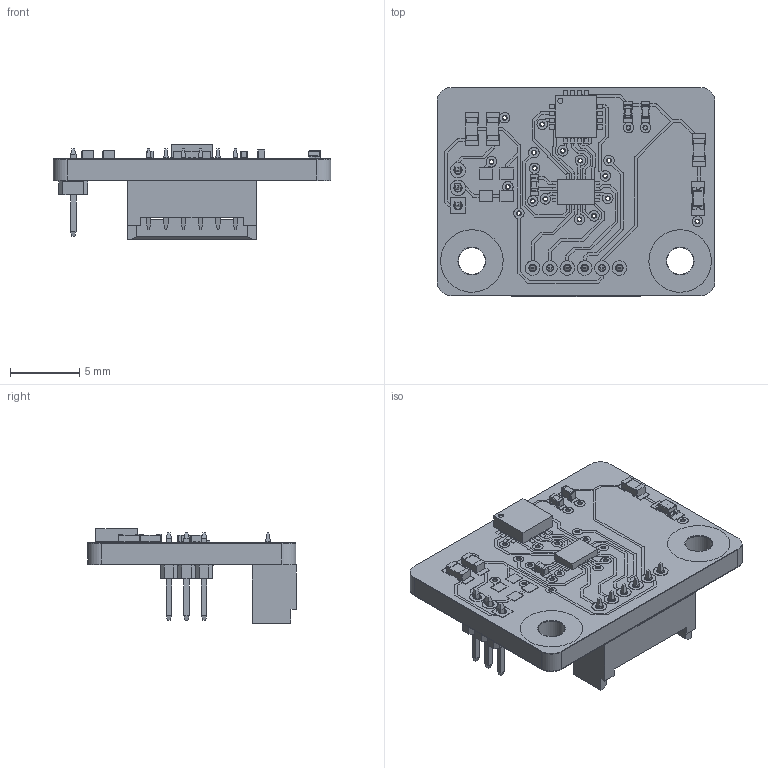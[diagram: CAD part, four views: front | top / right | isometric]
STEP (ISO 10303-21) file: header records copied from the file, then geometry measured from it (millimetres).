
FILE_DESCRIPTION(/* description */ (''),/* implementation_level */ '2;1');
FILE_NAME(/* name */ 'NCoder600-Config2.step',/* time_stamp */ '2025-08-12T17:18:06+05:30',/* author */ (''),/* organization */ (''),/* preprocessor_version */ 'ST-DEVELOPER v20.1',/* originating_system */ 'Autodesk Translation Framework v14.10.0.0',/* authorisation */ '');
FILE_SCHEMA (('AUTOMOTIVE_DESIGN { 1 0 10303 214 3 1 1 }'));
Products named in the file (43): NCoder600-Config2; NCoder600-Board_CAD; Board; Packages; CAPC1005X55N; Fillet1; Fillet2; body2; RESC1608X55N; CAPC1005X55N (1); 36624519; Part 3; Part 2; Part 1; QFN50P300X300X100-17N; MA600GQE-0000-P v3; Body (1); ThermalPin; PinsArrayLR; PinsArrayTB; RESC1608X55N (1); LEDC1608X80N; 36595674; Light; Body; Anode Bottom; Cathode Bottom; Anode; Cathode; Base; HDRV3W40P0X127_1X3_381X210X430; M50-3530342 v1; M50-35303_MOULD; M50-353_CONTACT; QFN40P180X260X55-16N; TMUX1574RSVR v1; BODY-SON1; FRAME-RSV0016A; 1-copper; 16-copper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
Assembly tree (46 placements, depth 6):
  NCoder600-Config2
    NCoder600-Board_CAD
      Board
      Packages
        CAPC1005X55N  x2
          Fillet1
          Fillet2
          body2
        RESC1608X55N  x2
        CAPC1005X55N (1)
          36624519
            Part 3
            Part 2
            Part 1
        QFN50P300X300X100-17N
          MA600GQE-0000-P v3
            Body (1)
            ThermalPin
            PinsArrayLR
            PinsArrayTB
        RESC1608X55N (1)
        LEDC1608X80N
          36595674
            Light
            Body
            Anode Bottom
            Cathode Bottom
            Anode
            Cathode
            Base
        HDRV3W40P0X127_1X3_381X210X430
          M50-3530342 v1
            M50-35303_MOULD
            M50-353_CONTACT  x3
        QFN40P180X260X55-16N
          TMUX1574RSVR v1
            BODY-SON1
            FRAME-RSV0016A
      1-copper
      16-copper
      1-soldermask
      16-soldermask
    530470610wbm000_01
Bounding box: 20 x 15.05 x 6.8 mm (x, y, z)
Volume: 565.9 mm3; surface area: 3235.5 mm2
Topology: 222 solids, 222 shells, 2948 faces, 7356 edges, 4838 vertices
Faces by surface type: plane 2302, cylinder 621, sphere 25
Full cylindrical faces by diameter (mm): 0.28 x71, 0.35 x92, 0.375 x1, 0.48 x30, 0.53 x15, 0.55 x24, 0.6 x12, 1.93 x6, 2 x8
Entity records: 86191 total; most frequent: CARTESIAN_POINT 14744, ORIENTED_EDGE 14188, DIRECTION 14157, EDGE_CURVE 7094, LINE 5887, VECTOR 5887, VERTEX_POINT 4694, AXIS2_PLACEMENT_3D 4135
